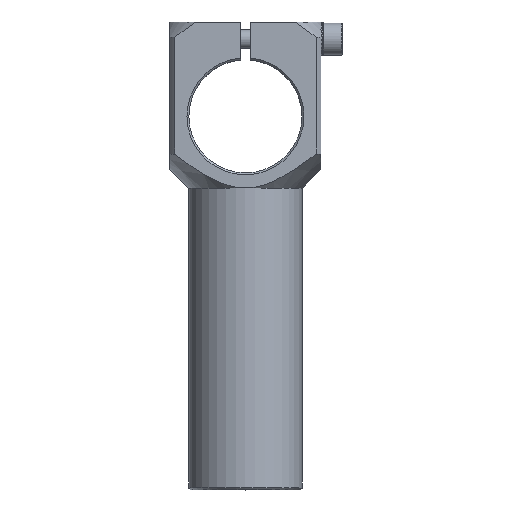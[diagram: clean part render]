
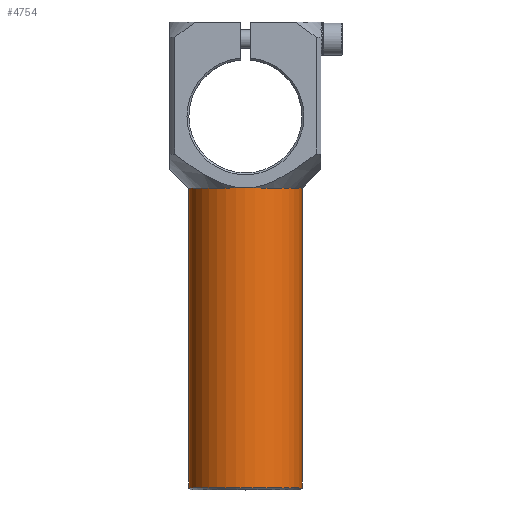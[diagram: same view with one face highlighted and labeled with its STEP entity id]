
A CAD part, top view. The second image highlights one B-rep face of the part: STEP entity #4754.
In plain terms, the highlighted cylindrical face has radius 15 mm (diameter 30 mm), a partial arc.
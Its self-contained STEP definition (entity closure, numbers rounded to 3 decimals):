
#90 = CYLINDRICAL_SURFACE ( 'NONE', #9435, 15. ) ;
#994 = CARTESIAN_POINT ( 'NONE',  ( 72.581, 49.555, -16.805 ) ) ;
#1019 = EDGE_CURVE ( 'NONE', #6493, #4060, #11372, .T. ) ;
#1351 = EDGE_CURVE ( 'NONE', #9628, #5432, #10173, .T. ) ;
#1693 = CARTESIAN_POINT ( 'NONE',  ( 57.581, -29.945, -1.805 ) ) ;
#1963 = DIRECTION ( 'NONE',  ( 0., 0., -1. ) ) ;
#2873 = CIRCLE ( 'NONE', #9797, 15. ) ;
#3165 = DIRECTION ( 'NONE',  ( 0., -1., 0. ) ) ;
#3375 = CARTESIAN_POINT ( 'NONE',  ( 57.581, -29.945, -16.805 ) ) ;
#3391 = DIRECTION ( 'NONE',  ( 1., 0., 0. ) ) ;
#3784 = EDGE_CURVE ( 'NONE', #4060, #5432, #10015, .T. ) ;
#3921 = CARTESIAN_POINT ( 'NONE',  ( 72.581, 49.555, -16.805 ) ) ;
#4060 = VERTEX_POINT ( 'NONE', #6856 ) ;
#4182 = CARTESIAN_POINT ( 'NONE',  ( 57.581, -29.945, -16.805 ) ) ;
#4379 = ORIENTED_EDGE ( 'NONE', *, *, #9440, .F. ) ;
#4754 = ADVANCED_FACE ( 'NONE', ( #11274 ), #90, .T. ) ;
#4756 = CARTESIAN_POINT ( 'NONE',  ( 57.581, 49.555, -16.805 ) ) ;
#4961 = ORIENTED_EDGE ( 'NONE', *, *, #1019, .T. ) ;
#5166 = DIRECTION ( 'NONE',  ( 0., 0., -1. ) ) ;
#5432 = VERTEX_POINT ( 'NONE', #9635 ) ;
#5718 = DIRECTION ( 'NONE',  ( -1., 0., 0. ) ) ;
#5768 = CARTESIAN_POINT ( 'NONE',  ( 72.581, -29.945, -16.805 ) ) ;
#6055 = CIRCLE ( 'NONE', #11141, 15. ) ;
#6313 = DIRECTION ( 'NONE',  ( 0., -1., 0. ) ) ;
#6493 = VERTEX_POINT ( 'NONE', #8115 ) ;
#6856 = CARTESIAN_POINT ( 'NONE',  ( 42.581, 49.555, -16.805 ) ) ;
#7014 = AXIS2_PLACEMENT_3D ( 'NONE', #3375, #3165, #1963 ) ;
#7235 = CARTESIAN_POINT ( 'NONE',  ( 57.581, 49.555, -16.805 ) ) ;
#7459 = VECTOR ( 'NONE', #6313, 1000. ) ;
#7696 = ORIENTED_EDGE ( 'NONE', *, *, #12098, .F. ) ;
#8115 = CARTESIAN_POINT ( 'NONE',  ( 57.581, 49.555, -1.805 ) ) ;
#8133 = DIRECTION ( 'NONE',  ( 0., -1., 0. ) ) ;
#8781 = AXIS2_PLACEMENT_3D ( 'NONE', #7235, #9678, #10230 ) ;
#9435 = AXIS2_PLACEMENT_3D ( 'NONE', #11068, #8133, #3391 ) ;
#9440 = EDGE_CURVE ( 'NONE', #10983, #9628, #6055, .T. ) ;
#9628 = VERTEX_POINT ( 'NONE', #1693 ) ;
#9635 = CARTESIAN_POINT ( 'NONE',  ( 42.581, -29.945, -16.805 ) ) ;
#9678 = DIRECTION ( 'NONE',  ( 0., -1., 0. ) ) ;
#9792 = VERTEX_POINT ( 'NONE', #3921 ) ;
#9797 = AXIS2_PLACEMENT_3D ( 'NONE', #4756, #11480, #5718 ) ;
#10015 = LINE ( 'NONE', #11082, #7459 ) ;
#10173 = CIRCLE ( 'NONE', #7014, 15. ) ;
#10230 = DIRECTION ( 'NONE',  ( -1., 0., 0. ) ) ;
#10628 = DIRECTION ( 'NONE',  ( 0., -1., 0. ) ) ;
#10681 = EDGE_LOOP ( 'NONE', ( #4961, #10819, #11252, #4379, #7696, #12324 ) ) ;
#10819 = ORIENTED_EDGE ( 'NONE', *, *, #3784, .T. ) ;
#10922 = DIRECTION ( 'NONE',  ( 0., -1., 0. ) ) ;
#10972 = EDGE_CURVE ( 'NONE', #9792, #6493, #2873, .T. ) ;
#10983 = VERTEX_POINT ( 'NONE', #5768 ) ;
#11068 = CARTESIAN_POINT ( 'NONE',  ( 57.581, 49.555, -16.805 ) ) ;
#11082 = CARTESIAN_POINT ( 'NONE',  ( 42.581, 49.555, -16.805 ) ) ;
#11141 = AXIS2_PLACEMENT_3D ( 'NONE', #4182, #10922, #5166 ) ;
#11252 = ORIENTED_EDGE ( 'NONE', *, *, #1351, .F. ) ;
#11274 = FACE_OUTER_BOUND ( 'NONE', #10681, .T. ) ;
#11372 = CIRCLE ( 'NONE', #8781, 15. ) ;
#11480 = DIRECTION ( 'NONE',  ( 0., -1., 0. ) ) ;
#12098 = EDGE_CURVE ( 'NONE', #9792, #10983, #12437, .T. ) ;
#12157 = VECTOR ( 'NONE', #10628, 1000. ) ;
#12324 = ORIENTED_EDGE ( 'NONE', *, *, #10972, .T. ) ;
#12437 = LINE ( 'NONE', #994, #12157 ) ;
